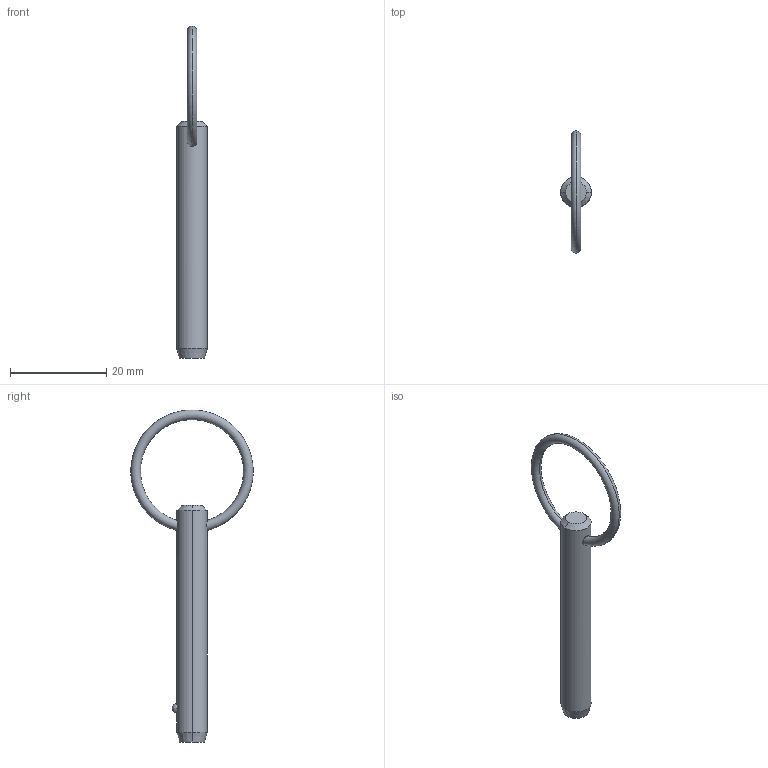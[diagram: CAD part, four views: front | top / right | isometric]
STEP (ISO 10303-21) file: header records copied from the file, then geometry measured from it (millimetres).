
FILE_DESCRIPTION (( 'STEP AP203' ), '1' );
FILE_NAME ('P1250.025-140.step', '2019-07-29T19:40:40', ( '' ), ( '' ), 'SwSTEP 2.0', 'SolidWorks 2017', '' );
FILE_SCHEMA (( 'CONFIG_CONTROL_DESIGN' ));
Length unit declared in the file: millimetre
Products named in the file (1): P1250.025-140
Bounding box: 6.35 x 25.38 x 68.92 mm (x, y, z)
Volume: 1748.6 mm3; surface area: 1436.9 mm2
Topology: 1 solids, 1 shells, 12 faces, 28 edges, 17 vertices
Faces by surface type: cone 4, torus 2, sphere 2, cylinder 2, plane 2
Entity records: 481 total; most frequent: CARTESIAN_POINT 148, DIRECTION 56, ORIENTED_EDGE 48, AXIS2_PLACEMENT_3D 25, EDGE_CURVE 24, EDGE_LOOP 15, VERTEX_POINT 15, FACE_OUTER_BOUND 12
